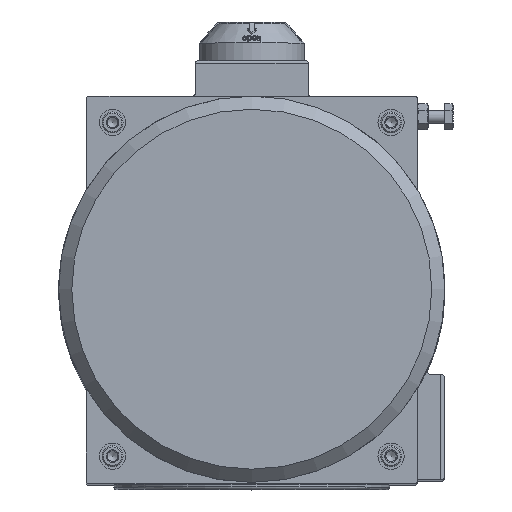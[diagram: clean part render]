
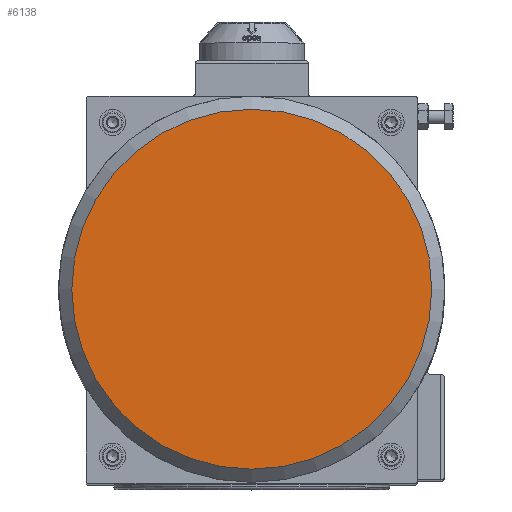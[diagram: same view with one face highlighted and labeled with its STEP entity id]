
A CAD part, top view. The second image highlights one B-rep face of the part: STEP entity #6138.
In plain terms, the highlighted planar face has unit normal (0, 0, 1).
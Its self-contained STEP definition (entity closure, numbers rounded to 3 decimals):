
#6138=ADVANCED_FACE('',(#13647),#13649,.T.);
#13647=FACE_BOUND('',#13648,.T.);
#13648=EDGE_LOOP('',(#20598));
#13649=PLANE('',#13650);
#13650=AXIS2_PLACEMENT_3D('',#13651,#13652,#13653);
#13651=CARTESIAN_POINT('',(0.,0.,359.));
#13652=DIRECTION('',(0.,0.,1.));
#13653=DIRECTION('',(1.,0.,0.));
#20598=ORIENTED_EDGE('',*,*,#23934,.T.);
#23934=EDGE_CURVE('',#27636,#27636,#27637,.T.);
#27636=VERTEX_POINT('',#50400);
#27637=CIRCLE('',#50401,137.);
#50400=CARTESIAN_POINT('',(137.,0.,359.));
#50401=AXIS2_PLACEMENT_3D('',#50402,#50403,#50404);
#50402=CARTESIAN_POINT('',(0.,0.,359.));
#50403=DIRECTION('',(0.,0.,1.));
#50404=DIRECTION('',(1.,0.,0.));
